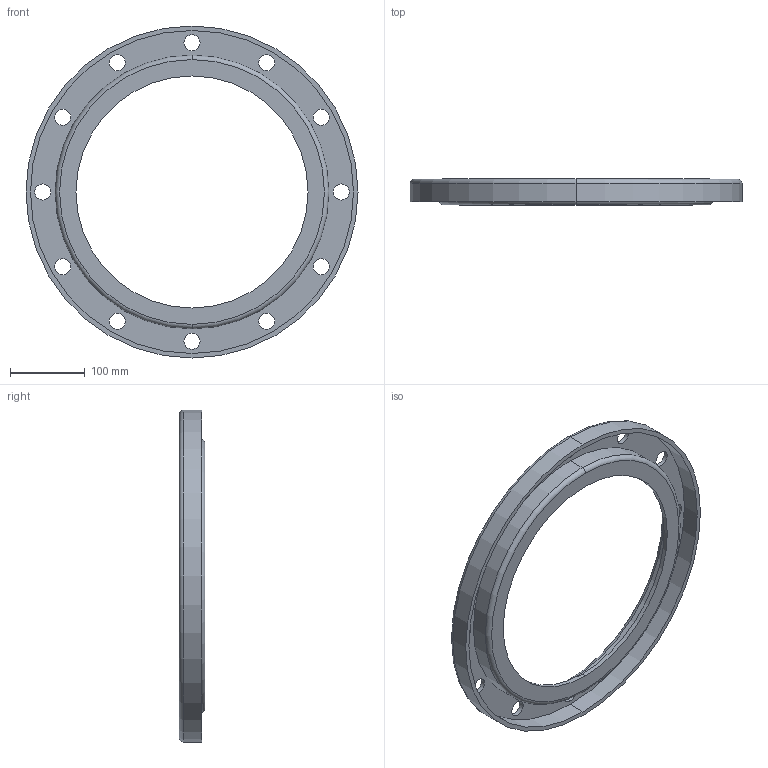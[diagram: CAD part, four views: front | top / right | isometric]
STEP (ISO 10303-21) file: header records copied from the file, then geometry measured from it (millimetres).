
FILE_DESCRIPTION (( 'STEP AP203' ), '1' );
FILE_NAME ('3D_R350_PN10_DN304_17677490.STEP', '2024-07-04T09:42:34', ( '' ), ( '' ), 'SwSTEP 2.0', 'SolidWorks 2024', '' );
FILE_SCHEMA (( 'CONFIG_CONTROL_DESIGN' ));
Length unit declared in the file: millimetre
Products named in the file (1): 3D_R350_PN10_DN304_17677490
Bounding box: 445 x 34.5 x 445 mm (x, y, z)
Volume: 818287.1 mm3; surface area: 291838.1 mm2
Topology: 1 solids, 1 shells, 45 faces, 114 edges, 74 vertices
Faces by surface type: cylinder 34, torus 6, plane 5
Entity records: 1529 total; most frequent: DIRECTION 286, CARTESIAN_POINT 234, ORIENTED_EDGE 228, AXIS2_PLACEMENT_3D 126, EDGE_CURVE 114, CIRCLE 80, VERTEX_POINT 74, EDGE_LOOP 74
